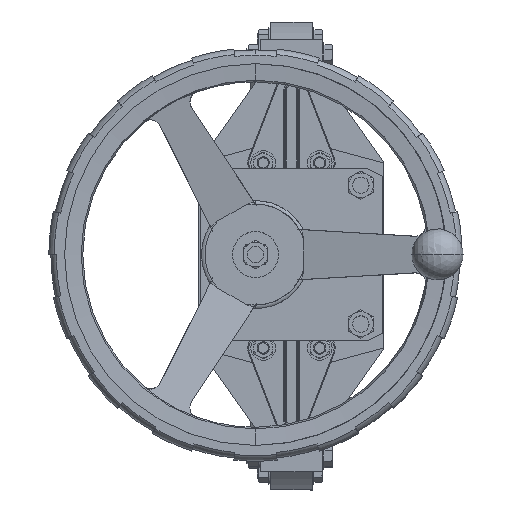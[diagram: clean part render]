
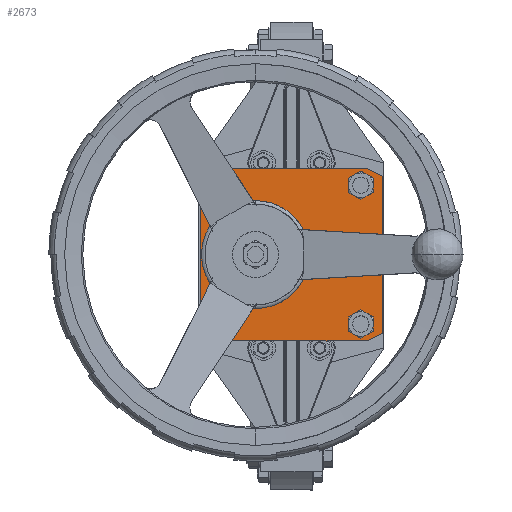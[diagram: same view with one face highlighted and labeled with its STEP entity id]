
A CAD part, top view. The second image highlights one B-rep face of the part: STEP entity #2673.
In plain terms, the highlighted planar face has unit normal (0, 0, 1).
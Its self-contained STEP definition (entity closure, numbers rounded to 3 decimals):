
#2673=ADVANCED_FACE('',(#8276,#8277,#8278,#8279,#8280,#8281),#8282,.T.);
#8276=FACE_BOUND('',#19284,.T.);
#8277=FACE_BOUND('',#19285,.T.);
#8278=FACE_OUTER_BOUND('',#19286,.T.);
#8279=FACE_BOUND('',#19287,.T.);
#8280=FACE_BOUND('',#19288,.T.);
#8281=FACE_BOUND('',#19289,.T.);
#8282=PLANE('',#19290);
#19284=EDGE_LOOP('',(#40678,#40679));
#19285=EDGE_LOOP('',(#40680,#40681));
#19286=EDGE_LOOP('',(#40682,#40683,#40684,#40685,#40686,#40687,#40688,#40689));
#19287=EDGE_LOOP('',(#40690,#40691));
#19288=EDGE_LOOP('',(#40692,#40693));
#19289=EDGE_LOOP('',(#40694,#40695));
#19290=AXIS2_PLACEMENT_3D('',#40696,#40697,#40698);
#40678=ORIENTED_EDGE('',*,*,#47574,.T.);
#40679=ORIENTED_EDGE('',*,*,#46259,.T.);
#40680=ORIENTED_EDGE('',*,*,#50598,.T.);
#40681=ORIENTED_EDGE('',*,*,#44570,.T.);
#40682=ORIENTED_EDGE('',*,*,#50599,.T.);
#40683=ORIENTED_EDGE('',*,*,#50275,.T.);
#40684=ORIENTED_EDGE('',*,*,#48679,.T.);
#40685=ORIENTED_EDGE('',*,*,#50467,.T.);
#40686=ORIENTED_EDGE('',*,*,#48233,.T.);
#40687=ORIENTED_EDGE('',*,*,#50395,.T.);
#40688=ORIENTED_EDGE('',*,*,#50437,.T.);
#40689=ORIENTED_EDGE('',*,*,#49059,.T.);
#40690=ORIENTED_EDGE('',*,*,#45495,.T.);
#40691=ORIENTED_EDGE('',*,*,#49628,.T.);
#40692=ORIENTED_EDGE('',*,*,#45407,.T.);
#40693=ORIENTED_EDGE('',*,*,#49933,.T.);
#40694=ORIENTED_EDGE('',*,*,#46016,.F.);
#40695=ORIENTED_EDGE('',*,*,#48378,.F.);
#40696=CARTESIAN_POINT('',(88.5,83.5,732.));
#40697=DIRECTION('',(0.,0.,1.));
#40698=DIRECTION('',(-1.,0.,0.));
#44570=EDGE_CURVE('',#55251,#55259,#55261,.T.);
#45407=EDGE_CURVE('',#56899,#56907,#56909,.T.);
#45495=EDGE_CURVE('',#57070,#57078,#57080,.T.);
#46016=EDGE_CURVE('',#58079,#58082,#58083,.T.);
#46259=EDGE_CURVE('',#58541,#58549,#58551,.T.);
#47574=EDGE_CURVE('',#58549,#58541,#60791,.T.);
#48233=EDGE_CURVE('',#61796,#61794,#61797,.T.);
#48378=EDGE_CURVE('',#58082,#58079,#62004,.T.);
#48679=EDGE_CURVE('',#62455,#62456,#62457,.T.);
#49059=EDGE_CURVE('',#62995,#62996,#62997,.T.);
#49628=EDGE_CURVE('',#57078,#57070,#63768,.T.);
#49933=EDGE_CURVE('',#56907,#56899,#64205,.T.);
#50275=EDGE_CURVE('',#64628,#62455,#64629,.T.);
#50395=EDGE_CURVE('',#61794,#64769,#64770,.T.);
#50437=EDGE_CURVE('',#64769,#62995,#64815,.T.);
#50467=EDGE_CURVE('',#62456,#61796,#64849,.T.);
#50598=EDGE_CURVE('',#55259,#55251,#64988,.T.);
#50599=EDGE_CURVE('',#62996,#64628,#64989,.T.);
#55251=VERTEX_POINT('',#67764);
#55259=VERTEX_POINT('',#67774);
#55261=CIRCLE('',#67777,8.5);
#56899=VERTEX_POINT('',#70339);
#56907=VERTEX_POINT('',#70349);
#56909=CIRCLE('',#70352,8.5);
#57070=VERTEX_POINT('',#70598);
#57078=VERTEX_POINT('',#70608);
#57080=CIRCLE('',#70611,8.5);
#58079=VERTEX_POINT('',#72348);
#58082=VERTEX_POINT('',#72352);
#58083=CIRCLE('',#72353,27.5);
#58541=VERTEX_POINT('',#73287);
#58549=VERTEX_POINT('',#73297);
#58551=CIRCLE('',#73300,8.5);
#60791=CIRCLE('',#78470,8.5);
#61794=VERTEX_POINT('',#80988);
#61796=VERTEX_POINT('',#80991);
#61797=LINE('',#80992,#80993);
#62004=CIRCLE('',#81544,27.5);
#62455=VERTEX_POINT('',#82716);
#62456=VERTEX_POINT('',#82717);
#62457=LINE('',#82718,#82719);
#62995=VERTEX_POINT('',#84384);
#62996=VERTEX_POINT('',#84385);
#62997=LINE('',#84386,#84387);
#63768=CIRCLE('',#86276,8.5);
#64205=CIRCLE('',#87174,8.5);
#64628=VERTEX_POINT('',#88229);
#64629=LINE('',#88230,#88231);
#64769=VERTEX_POINT('',#88587);
#64770=LINE('',#88588,#88589);
#64815=LINE('',#88716,#88717);
#64849=LINE('',#88836,#88837);
#64988=CIRCLE('',#89164,8.5);
#64989=LINE('',#89165,#89166);
#67764=CARTESIAN_POINT('',(-59.,67.5,732.));
#67774=CARTESIAN_POINT('',(-76.,67.5,732.));
#67777=AXIS2_PLACEMENT_3D('',#92512,#92513,#92514);
#70339=CARTESIAN_POINT('',(59.,-67.5,732.));
#70349=CARTESIAN_POINT('',(76.,-67.5,732.));
#70352=AXIS2_PLACEMENT_3D('',#94091,#94092,#94093);
#70598=CARTESIAN_POINT('',(59.,67.5,732.));
#70608=CARTESIAN_POINT('',(76.,67.5,732.));
#70611=AXIS2_PLACEMENT_3D('',#94254,#94255,#94256);
#72348=CARTESIAN_POINT('',(-7.5,0.,732.));
#72352=CARTESIAN_POINT('',(-62.5,0.,732.));
#72353=AXIS2_PLACEMENT_3D('',#95183,#95184,#95185);
#73287=CARTESIAN_POINT('',(-59.,-67.5,732.));
#73297=CARTESIAN_POINT('',(-76.,-67.5,732.));
#73300=AXIS2_PLACEMENT_3D('',#95605,#95606,#95607);
#78470=AXIS2_PLACEMENT_3D('',#97517,#97518,#97519);
#80988=CARTESIAN_POINT('',(73.5,-83.5,732.));
#80991=CARTESIAN_POINT('',(-73.5,-83.5,732.));
#80992=CARTESIAN_POINT('',(-88.5,-83.5,732.));
#80993=VECTOR('',#98365,1000.);
#81544=AXIS2_PLACEMENT_3D('',#98573,#98574,#98575);
#82716=CARTESIAN_POINT('',(-88.5,76.5,732.));
#82717=CARTESIAN_POINT('',(-88.5,-76.5,732.));
#82718=CARTESIAN_POINT('',(-88.5,83.5,732.));
#82719=VECTOR('',#98994,1000.);
#84384=CARTESIAN_POINT('',(88.5,76.5,732.));
#84385=CARTESIAN_POINT('',(73.5,83.5,732.));
#84386=CARTESIAN_POINT('',(85.818,77.752,732.));
#84387=VECTOR('',#99482,1000.);
#86276=AXIS2_PLACEMENT_3D('',#100346,#100347,#100348);
#87174=AXIS2_PLACEMENT_3D('',#100843,#100844,#100845);
#88229=CARTESIAN_POINT('',(-73.5,83.5,732.));
#88230=CARTESIAN_POINT('',(59.529,145.58,732.));
#88231=VECTOR('',#101367,1000.);
#88587=CARTESIAN_POINT('',(88.5,-76.5,732.));
#88588=CARTESIAN_POINT('',(149.814,-47.887,732.));
#88589=VECTOR('',#101568,1000.);
#88716=CARTESIAN_POINT('',(88.5,-83.5,732.));
#88717=VECTOR('',#101633,1000.);
#88836=CARTESIAN_POINT('',(-4.467,-115.715,732.));
#88837=VECTOR('',#101671,1000.);
#89164=AXIS2_PLACEMENT_3D('',#101889,#101890,#101891);
#89165=CARTESIAN_POINT('',(88.5,83.5,732.));
#89166=VECTOR('',#101892,1000.);
#92512=CARTESIAN_POINT('',(-67.5,67.5,732.));
#92513=DIRECTION('',(0.,0.,-1.));
#92514=DIRECTION('',(-1.,0.,0.));
#94091=CARTESIAN_POINT('',(67.5,-67.5,732.));
#94092=DIRECTION('',(0.,0.,-1.));
#94093=DIRECTION('',(-1.,0.,0.));
#94254=CARTESIAN_POINT('',(67.5,67.5,732.));
#94255=DIRECTION('',(0.,0.,-1.));
#94256=DIRECTION('',(-1.,0.,0.));
#95183=CARTESIAN_POINT('',(-35.,0.,732.));
#95184=DIRECTION('',(0.,0.,1.));
#95185=DIRECTION('',(1.,0.,0.));
#95605=CARTESIAN_POINT('',(-67.5,-67.5,732.));
#95606=DIRECTION('',(0.,0.,-1.));
#95607=DIRECTION('',(-1.,0.,0.));
#97517=CARTESIAN_POINT('',(-67.5,-67.5,732.));
#97518=DIRECTION('',(0.,0.,-1.));
#97519=DIRECTION('',(-1.,0.,0.));
#98365=DIRECTION('',(1.,0.,0.));
#98573=CARTESIAN_POINT('',(-35.,0.,732.));
#98574=DIRECTION('',(0.,0.,1.));
#98575=DIRECTION('',(1.,0.,0.));
#98994=DIRECTION('',(0.,-1.,0.));
#99482=DIRECTION('',(-0.906,0.423,0.));
#100346=CARTESIAN_POINT('',(67.5,67.5,732.));
#100347=DIRECTION('',(0.,0.,-1.));
#100348=DIRECTION('',(-1.,0.,0.));
#100843=CARTESIAN_POINT('',(67.5,-67.5,732.));
#100844=DIRECTION('',(0.,0.,-1.));
#100845=DIRECTION('',(-1.,0.,0.));
#101367=DIRECTION('',(-0.906,-0.423,0.));
#101568=DIRECTION('',(0.906,0.423,0.));
#101633=DIRECTION('',(0.,1.,0.));
#101671=DIRECTION('',(0.906,-0.423,0.));
#101889=CARTESIAN_POINT('',(-67.5,67.5,732.));
#101890=DIRECTION('',(0.,0.,-1.));
#101891=DIRECTION('',(-1.,0.,0.));
#101892=DIRECTION('',(-1.,0.,0.));
